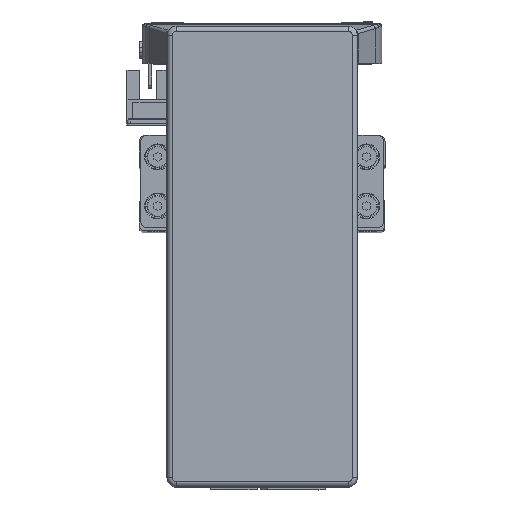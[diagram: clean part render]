
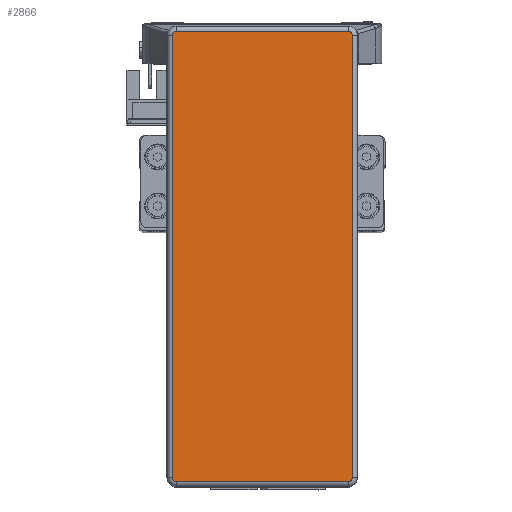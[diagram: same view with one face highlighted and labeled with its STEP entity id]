
A CAD part, top view. The second image highlights one B-rep face of the part: STEP entity #2866.
In plain terms, the highlighted planar face has unit normal (0, 0, 1) as drawn and (0, 0, -1) by its records, which use the part's own axes.
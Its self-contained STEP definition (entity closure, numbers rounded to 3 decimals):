
#2866 = ADVANCED_FACE ( 'NONE', ( #38799 ), #41471, .F. ) ;
#5293 = CARTESIAN_POINT ( 'NONE',  ( 71.995, 29.295, -32.2 ) ) ;
#5295 = CARTESIAN_POINT ( 'NONE',  ( 71.995, -29.295, -32.2 ) ) ;
#5302 = CARTESIAN_POINT ( 'NONE',  ( -71.995, -29.295, -32.2 ) ) ;
#5305 = CARTESIAN_POINT ( 'NONE',  ( -73.295, -27.995, -32.2 ) ) ;
#5311 = CARTESIAN_POINT ( 'NONE',  ( 73.295, 27.995, -32.2 ) ) ;
#5318 = CARTESIAN_POINT ( 'NONE',  ( -71.995, 29.295, -32.2 ) ) ;
#5324 = CARTESIAN_POINT ( 'NONE',  ( 73.295, -27.995, -32.2 ) ) ;
#5360 = CARTESIAN_POINT ( 'NONE',  ( -73.295, 27.995, -32.2 ) ) ;
#6703 = DIRECTION ( 'NONE',  ( -1., 0., 0. ) ) ;
#6732 = CARTESIAN_POINT ( 'NONE',  ( 71.995, -29.295, -32.2 ) ) ;
#7490 = DIRECTION ( 'NONE',  ( 0., 1., 0. ) ) ;
#7493 = CARTESIAN_POINT ( 'NONE',  ( -71.995, 27.995, -32.2 ) ) ;
#7514 = DIRECTION ( 'NONE',  ( 1., 0., 0. ) ) ;
#7516 = CARTESIAN_POINT ( 'NONE',  ( -71.995, -27.995, -32.2 ) ) ;
#7523 = CARTESIAN_POINT ( 'NONE',  ( -73.295, -27.995, -32.2 ) ) ;
#7527 = DIRECTION ( 'NONE',  ( 0., 0., -1. ) ) ;
#7538 = DIRECTION ( 'NONE',  ( 1., 0., 0. ) ) ;
#7541 = DIRECTION ( 'NONE',  ( 0., 0., -1. ) ) ;
#7599 = CARTESIAN_POINT ( 'NONE',  ( 71.995, 29.295, -32.2 ) ) ;
#7600 = DIRECTION ( 'NONE',  ( 1., 0., 0. ) ) ;
#7603 = DIRECTION ( 'NONE',  ( 1., 0., 0. ) ) ;
#7607 = DIRECTION ( 'NONE',  ( 0., 0., -1. ) ) ;
#7629 = CARTESIAN_POINT ( 'NONE',  ( 71.995, 27.995, -32.2 ) ) ;
#7663 = DIRECTION ( 'NONE',  ( 1., 0., 0. ) ) ;
#7668 = DIRECTION ( 'NONE',  ( 0., 0., -1. ) ) ;
#7674 = CARTESIAN_POINT ( 'NONE',  ( 71.995, -27.995, -32.2 ) ) ;
#7747 = LINE ( 'NONE', #6732, #7785 ) ;
#7760 = LINE ( 'NONE', #17222, #7795 ) ;
#7785 = VECTOR ( 'NONE', #6703, 1000. ) ;
#7795 = VECTOR ( 'NONE', #17265, 1000. ) ;
#17222 = CARTESIAN_POINT ( 'NONE',  ( 73.295, -27.995, -32.2 ) ) ;
#17265 = DIRECTION ( 'NONE',  ( 0., -1., 0. ) ) ;
#25051 = EDGE_LOOP ( 'NONE', ( #26455, #26460, #26400, #26398, #26385, #26409, #26390, #26432 ) ) ;
#26385 = ORIENTED_EDGE ( 'NONE', *, *, #30538, .T. ) ;
#26390 = ORIENTED_EDGE ( 'NONE', *, *, #30552, .T. ) ;
#26398 = ORIENTED_EDGE ( 'NONE', *, *, #30533, .T. ) ;
#26400 = ORIENTED_EDGE ( 'NONE', *, *, #30586, .T. ) ;
#26409 = ORIENTED_EDGE ( 'NONE', *, *, #30539, .T. ) ;
#26432 = ORIENTED_EDGE ( 'NONE', *, *, #30554, .T. ) ;
#26455 = ORIENTED_EDGE ( 'NONE', *, *, #30612, .T. ) ;
#26460 = ORIENTED_EDGE ( 'NONE', *, *, #30561, .T. ) ;
#26485 = VERTEX_POINT ( 'NONE', #5293 ) ;
#26489 = VERTEX_POINT ( 'NONE', #5305 ) ;
#26502 = VERTEX_POINT ( 'NONE', #5295 ) ;
#26504 = VERTEX_POINT ( 'NONE', #5318 ) ;
#26522 = VERTEX_POINT ( 'NONE', #5302 ) ;
#26531 = VERTEX_POINT ( 'NONE', #5324 ) ;
#26534 = VERTEX_POINT ( 'NONE', #5311 ) ;
#26538 = VERTEX_POINT ( 'NONE', #5360 ) ;
#30533 = EDGE_CURVE ( 'NONE', #26522, #26489, #44297, .T. ) ;
#30538 = EDGE_CURVE ( 'NONE', #26489, #26538, #44263, .T. ) ;
#30539 = EDGE_CURVE ( 'NONE', #26538, #26504, #44262, .T. ) ;
#30552 = EDGE_CURVE ( 'NONE', #26504, #26485, #43878, .T. ) ;
#30554 = EDGE_CURVE ( 'NONE', #26485, #26534, #44110, .T. ) ;
#30561 = EDGE_CURVE ( 'NONE', #26531, #26502, #43747, .T. ) ;
#30586 = EDGE_CURVE ( 'NONE', #26502, #26522, #7747, .T. ) ;
#30612 = EDGE_CURVE ( 'NONE', #26534, #26531, #7760, .T. ) ;
#38799 = FACE_OUTER_BOUND ( 'NONE', #25051, .T. ) ;
#41471 = PLANE ( 'NONE',  #42106 ) ;
#41520 = DIRECTION ( 'NONE',  ( 1., 0., 0. ) ) ;
#41551 = CARTESIAN_POINT ( 'NONE',  ( 71.995, -27.995, -32.2 ) ) ;
#41552 = DIRECTION ( 'NONE',  ( 0., 0., 1. ) ) ;
#42106 = AXIS2_PLACEMENT_3D ( 'NONE', #41551, #41552, #41520 ) ;
#42465 = AXIS2_PLACEMENT_3D ( 'NONE', #7516, #7527, #7514 ) ;
#42467 = AXIS2_PLACEMENT_3D ( 'NONE', #7493, #7541, #7538 ) ;
#42481 = AXIS2_PLACEMENT_3D ( 'NONE', #7674, #7668, #7663 ) ;
#42492 = AXIS2_PLACEMENT_3D ( 'NONE', #7629, #7607, #7603 ) ;
#43747 = CIRCLE ( 'NONE', #42481, 1.3 ) ;
#43878 = LINE ( 'NONE', #7599, #43977 ) ;
#43977 = VECTOR ( 'NONE', #7600, 1000. ) ;
#44110 = CIRCLE ( 'NONE', #42492, 1.3 ) ;
#44262 = CIRCLE ( 'NONE', #42467, 1.3 ) ;
#44263 = LINE ( 'NONE', #7523, #44272 ) ;
#44272 = VECTOR ( 'NONE', #7490, 1000. ) ;
#44297 = CIRCLE ( 'NONE', #42465, 1.3 ) ;
